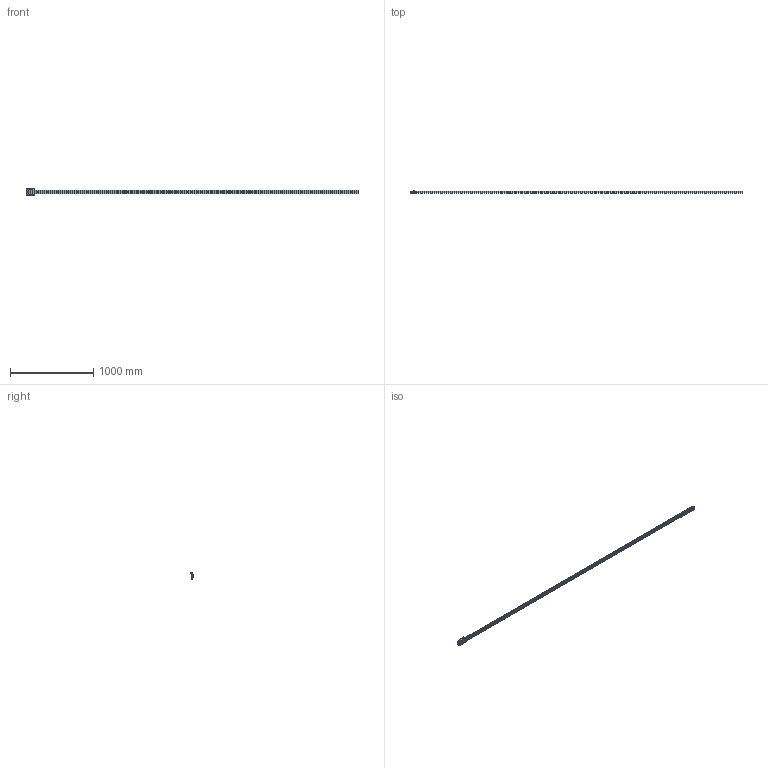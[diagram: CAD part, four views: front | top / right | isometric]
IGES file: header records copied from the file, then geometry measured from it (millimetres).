
Start section: Data from Parasolid IGES Translator 20.0.26, Copyright(c) 2006 Siemens P LM Software. All Rights Reserved.
Global section: file name: FDG20 84442LN_4000-0-0.igs; native system: By Siemens PLM Incorporated; preprocessor: XPlus GENERIC/IGES 20.0.26; author: Noname; organization: Noname; date: 20220623.025033; units: millimetre
Bounding box: 4000 x 28 x 81.8 mm (x, y, z)
Surface area: 806307 mm2 (no closed solid volume)
Topology: 0 solids, 0 shells, 845 faces, 4098 edges, 3809 vertices
Faces by surface type: extrusion 491, revolution 354
